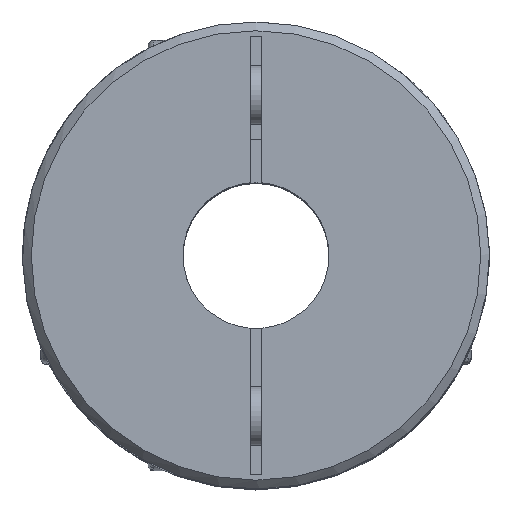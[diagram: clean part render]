
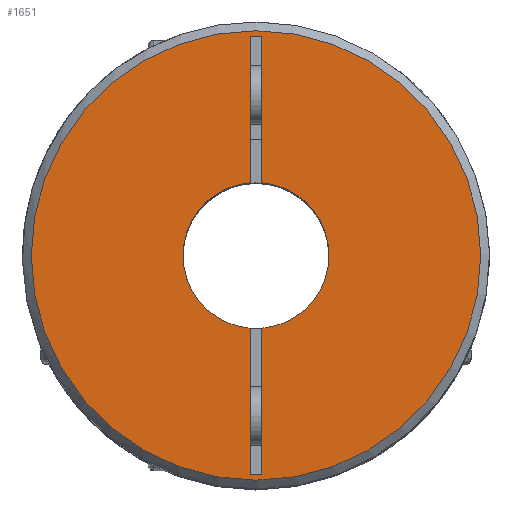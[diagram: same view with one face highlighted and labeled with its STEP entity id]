
A CAD part, top view. The second image highlights one B-rep face of the part: STEP entity #1651.
In plain terms, the highlighted planar face has unit normal (0, 0, 1).
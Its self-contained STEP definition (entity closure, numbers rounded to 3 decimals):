
#45 = EDGE_CURVE ( 'NONE', #1302, #2878, #1003, .T. ) ;
#173 = DIRECTION ( 'NONE',  ( 1., 0., 0. ) ) ;
#178 = VECTOR ( 'NONE', #2382, 1000. ) ;
#199 = AXIS2_PLACEMENT_3D ( 'NONE', #1018, #3046, #1044 ) ;
#213 = CARTESIAN_POINT ( 'NONE',  ( 0.4, 5., 20.5 ) ) ;
#269 = VERTEX_POINT ( 'NONE', #835 ) ;
#835 = CARTESIAN_POINT ( 'NONE',  ( 0.4, -15., 20.5 ) ) ;
#1003 = LINE ( 'NONE', #2945, #1851 ) ;
#1010 = CARTESIAN_POINT ( 'NONE',  ( -0.4, 15., 20.5 ) ) ;
#1018 = CARTESIAN_POINT ( 'NONE',  ( 0., 0., 20.5 ) ) ;
#1044 = DIRECTION ( 'NONE',  ( 0., -1., 0. ) ) ;
#1048 = CARTESIAN_POINT ( 'NONE',  ( 0.4, 15., 20.5 ) ) ;
#1116 = CIRCLE ( 'NONE', #199, 5. ) ;
#1208 = DIRECTION ( 'NONE',  ( 0., -1., 0. ) ) ;
#1248 = DIRECTION ( 'NONE',  ( 0., 1., 0. ) ) ;
#1249 = VECTOR ( 'NONE', #4003, 1000. ) ;
#1285 = ORIENTED_EDGE ( 'NONE', *, *, #1511, .F. ) ;
#1302 = VERTEX_POINT ( 'NONE', #1048 ) ;
#1511 = EDGE_CURVE ( 'NONE', #3335, #269, #2338, .T. ) ;
#1544 = CARTESIAN_POINT ( 'NONE',  ( 0., 0., 20.5 ) ) ;
#1590 = DIRECTION ( 'NONE',  ( 0., 1., 0. ) ) ;
#1620 = ORIENTED_EDGE ( 'NONE', *, *, #1632, .F. ) ;
#1632 = EDGE_CURVE ( 'NONE', #4350, #2952, #3002, .T. ) ;
#1634 = ORIENTED_EDGE ( 'NONE', *, *, #2332, .T. ) ;
#1651 = ADVANCED_FACE ( 'NONE', ( #2558, #1939 ), #3898, .F. ) ;
#1762 = EDGE_CURVE ( 'NONE', #4208, #4350, #2643, .T. ) ;
#1763 = VERTEX_POINT ( 'NONE', #2312 ) ;
#1816 = ORIENTED_EDGE ( 'NONE', *, *, #3878, .T. ) ;
#1844 = LINE ( 'NONE', #3843, #1946 ) ;
#1851 = VECTOR ( 'NONE', #2659, 1000. ) ;
#1939 = FACE_BOUND ( 'NONE', #2546, .T. ) ;
#1946 = VECTOR ( 'NONE', #173, 1000. ) ;
#2018 = CIRCLE ( 'NONE', #2159, 15.4 ) ;
#2122 = ORIENTED_EDGE ( 'NONE', *, *, #45, .T. ) ;
#2159 = AXIS2_PLACEMENT_3D ( 'NONE', #3578, #3935, #1590 ) ;
#2202 = CARTESIAN_POINT ( 'NONE',  ( -0.4, 5., 20.5 ) ) ;
#2292 = CARTESIAN_POINT ( 'NONE',  ( -0.4, -15., 20.5 ) ) ;
#2312 = CARTESIAN_POINT ( 'NONE',  ( 0.4, -4.984, 20.5 ) ) ;
#2326 = EDGE_LOOP ( 'NONE', ( #2906 ) ) ;
#2332 = EDGE_CURVE ( 'NONE', #3335, #2952, #3916, .T. ) ;
#2338 = LINE ( 'NONE', #2292, #178 ) ;
#2382 = DIRECTION ( 'NONE',  ( 1., 0., 0. ) ) ;
#2528 = VECTOR ( 'NONE', #3982, 1000. ) ;
#2546 = EDGE_LOOP ( 'NONE', ( #2574, #1285, #1634, #1620, #3961, #1816, #2122, #4051 ) ) ;
#2558 = FACE_OUTER_BOUND ( 'NONE', #2326, .T. ) ;
#2563 = CARTESIAN_POINT ( 'NONE',  ( 0., 15.4, 20.5 ) ) ;
#2574 = ORIENTED_EDGE ( 'NONE', *, *, #3663, .F. ) ;
#2643 = LINE ( 'NONE', #1010, #1249 ) ;
#2648 = CARTESIAN_POINT ( 'NONE',  ( -0.4, 15., 20.5 ) ) ;
#2659 = DIRECTION ( 'NONE',  ( 0., -1., 0. ) ) ;
#2758 = CARTESIAN_POINT ( 'NONE',  ( -0.4, 4.984, 20.5 ) ) ;
#2878 = VERTEX_POINT ( 'NONE', #3709 ) ;
#2887 = VERTEX_POINT ( 'NONE', #2563 ) ;
#2899 = DIRECTION ( 'NONE',  ( 0., 0., -1. ) ) ;
#2906 = ORIENTED_EDGE ( 'NONE', *, *, #3359, .T. ) ;
#2928 = LINE ( 'NONE', #213, #4313 ) ;
#2945 = CARTESIAN_POINT ( 'NONE',  ( 0.4, 15., 20.5 ) ) ;
#2952 = VERTEX_POINT ( 'NONE', #3900 ) ;
#3002 = CIRCLE ( 'NONE', #3570, 5. ) ;
#3046 = DIRECTION ( 'NONE',  ( 0., 0., 1. ) ) ;
#3335 = VERTEX_POINT ( 'NONE', #4309 ) ;
#3359 = EDGE_CURVE ( 'NONE', #2887, #2887, #2018, .T. ) ;
#3570 = AXIS2_PLACEMENT_3D ( 'NONE', #1544, #4254, #1208 ) ;
#3578 = CARTESIAN_POINT ( 'NONE',  ( 0., 0., 20.5 ) ) ;
#3663 = EDGE_CURVE ( 'NONE', #269, #1763, #2928, .T. ) ;
#3709 = CARTESIAN_POINT ( 'NONE',  ( 0.4, 4.984, 20.5 ) ) ;
#3843 = CARTESIAN_POINT ( 'NONE',  ( -0.4, 15., 20.5 ) ) ;
#3878 = EDGE_CURVE ( 'NONE', #4208, #1302, #1844, .T. ) ;
#3898 = PLANE ( 'NONE',  #4145 ) ;
#3900 = CARTESIAN_POINT ( 'NONE',  ( -0.4, -4.984, 20.5 ) ) ;
#3916 = LINE ( 'NONE', #2202, #2528 ) ;
#3929 = DIRECTION ( 'NONE',  ( 0., 1., 0. ) ) ;
#3935 = DIRECTION ( 'NONE',  ( 0., 0., 1. ) ) ;
#3961 = ORIENTED_EDGE ( 'NONE', *, *, #1762, .F. ) ;
#3982 = DIRECTION ( 'NONE',  ( 0., 1., 0. ) ) ;
#4003 = DIRECTION ( 'NONE',  ( 0., -1., 0. ) ) ;
#4051 = ORIENTED_EDGE ( 'NONE', *, *, #4126, .F. ) ;
#4126 = EDGE_CURVE ( 'NONE', #1763, #2878, #1116, .T. ) ;
#4145 = AXIS2_PLACEMENT_3D ( 'NONE', #4226, #2899, #1248 ) ;
#4208 = VERTEX_POINT ( 'NONE', #2648 ) ;
#4226 = CARTESIAN_POINT ( 'NONE',  ( 0., 5., 20.5 ) ) ;
#4254 = DIRECTION ( 'NONE',  ( 0., 0., 1. ) ) ;
#4309 = CARTESIAN_POINT ( 'NONE',  ( -0.4, -15., 20.5 ) ) ;
#4313 = VECTOR ( 'NONE', #3929, 1000. ) ;
#4350 = VERTEX_POINT ( 'NONE', #2758 ) ;
